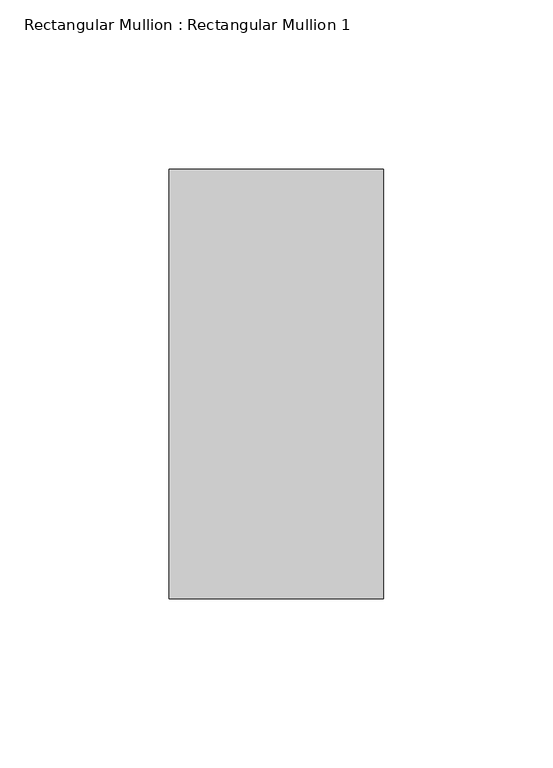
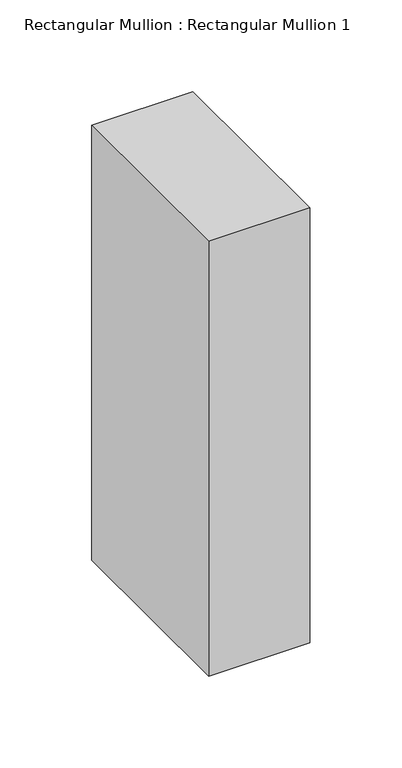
"""IFC4 building model written with IfcOpenShell, lengths in millimetres: member geometry, Rectangular Mullion : Rectangular Mullion 1."""

from ifc_helpers import new_model, si_unit, frame, origin, place, context, project, spatial, polyline, outline, extrude, source, transform, mapped, element, save


def rectangular_mullion_rectangular_mullion_1_3247b7b6(model_context):
    return source(origin(), model_context, "Body", "SweptSolid", [
        extrude(outline(polyline([(0.0, 63.5), (0.0, -63.5), (-63.5, -63.5), (-63.5, 63.5), (0.0, 63.5)])), frame((0.0, 0.0, -288.7998552), z_axis=(0.0, 0.0, 1.0), x_axis=(1.0, 0.0, 0.0)), (0.0, 0.0, 1.0), 288.7998552),
    ])


if __name__ == "__main__":
    model = new_model("IFC4")
    model_context = context("Model", 3, world=origin())
    ifc_project = project(units=[si_unit("LENGTHUNIT", "METRE", prefix="MILLI")], contexts=[model_context])
    site = spatial("IfcSite", under=ifc_project)
    building = spatial("IfcBuilding", under=site)
    placement = place(None, origin())
    rectangular_mullion_rectangular_mullion_1_shape = rectangular_mullion_rectangular_mullion_1_3247b7b6(model_context)
    element("IfcMember", 1, ObjectType="Rectangular Mullion : Rectangular Mullion 1", at=placement, inside=building, context=model_context, shape_type="MappedRepresentation", body=[
        mapped(rectangular_mullion_rectangular_mullion_1_shape, transform((0.0, 0.0, 0.0), x_axis=(1.0, 0.0, 0.0), y_axis=(0.0, 1.0, 0.0), z_axis=(0.0, 0.0, 1.0))),
    ])
    save(model, "model.ifc")
